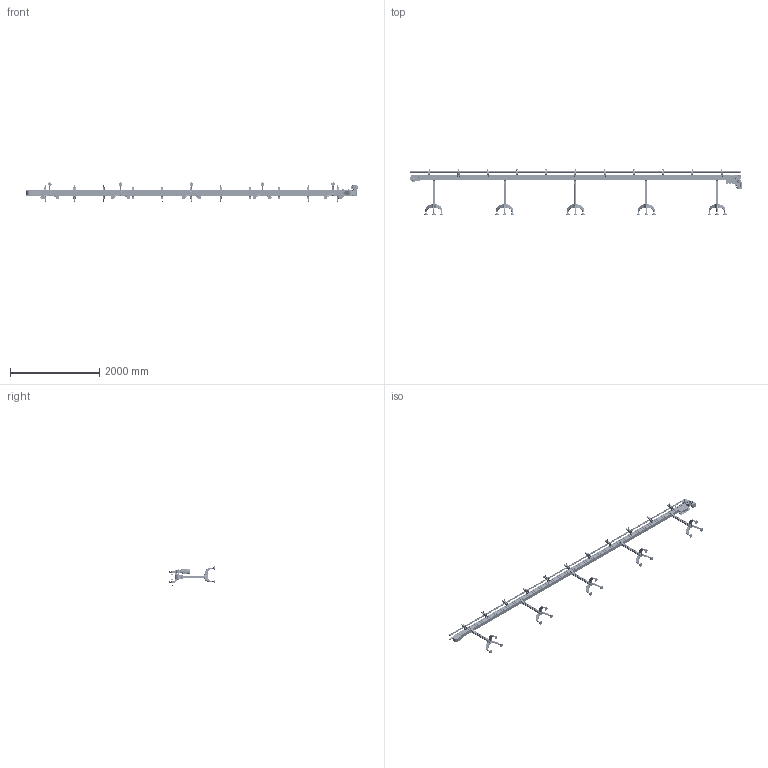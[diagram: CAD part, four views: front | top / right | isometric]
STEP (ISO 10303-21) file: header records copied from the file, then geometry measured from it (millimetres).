
FILE_DESCRIPTION (( 'STEP AP203' ), '1' );
FILE_NAME ('NASTRO_CATENA.step', '2026-05-29T10:57:27', ( 'Utente Windows' ), ( '' ), 'SwSTEP 2.0', 'SolidWorks 2024', '' );
FILE_SCHEMA (( 'CONFIG_CONTROL_DESIGN' ));
Length unit declared in the file: millimetre
Products named in the file (64): VITI TE UNI 5739 INOX_M8x16 UNI 5739 INOX; CHIAVETTE_A 8x7x70 UNI 6604-69; 2000.001.201-3; TRIPIEDE_GAMBE_KP325; 2000.001.202-3; PU008.012.025N; GRANI A PUNTA PIATTA UNI 5923_M8x20 UNI 5923; 084.312.006; 084.712.002; 2000.001.003-3; GAMBE_KP325_Default<A macchina>; PROFILO POLIZENE_209<A macchina>; 084.301.000 VITI ALUSIC_084.301.002; 084.302.000 DADI ALUSIC 13x13-1_084.302.004; 084.711.002; 084.402.004; SUPPORTO_SPONDA; 2000.001.011; 2000.001.006-2; VITI TSEI UNI 5933 INOX_0410UNI5933A2; 2000.325.205-4; 2000.001.212; 2000.325.105-2; 2000.882.750; 084.808.004; VITI TE UNI 5739 INOX_M8x20 UNI 5739 INOX; DADI ESAGONALI AUTOBLOCCANTI UNI 7473 INOX_M6 UNI 7473 INOX; K325_R_P; 2000.325.103; K325_DIR_49_P_DX_MOTORE A DESTRA; 084.802.027; 084.201.012-1; 2000.325.620; VITI TE UNI 5739 INOX_M6x30 UNI 5739 INOX; 2000.325.104-2; RONDELLE FASCIA LARGA UNI 6593 INOX_8.4x32 UNI 6593 INOX; FLANGIA_GAMBE_KP325; 084.408.001; 084.711.005; 2000.001.004-3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
Assembly tree (170 placements, depth 4):
  NASTRO_CATENA
    K325_1_Default<A macchina>
    K325_DIR_49_P_DX_MOTORE A DESTRA
      084.802.027
      2000.001.006-2  x2
      2000.325.003  x2
      2000.325.103
      2000.001.001  x2
      2000.325.001_Default<Lavorato>  x2
      084.808.004
      2000.325.104-2
      2000.001.004-3
      2000.001.011
      2000.325.105-2
      2000.001.003-3
      CHIAVETTE_A 8x7x70 UNI 6604-69
      CHIAVETTE_A 8x7x50 UNI 6604-69
      SBPF205  x2
      663151_NS880T12R25
      VITI TSEI UNI 5933 INOX_0410UNI5933A2  x8
      GRANI A PUNTA CONICA UNI 5927_M8x16 UNI 5927  x8
      VITI TCEI UNI 5931 INOX_M6x30 UNI 5931 INOX  x2
      VITI TE UNI 5739 INOX_M8x20 UNI 5739 INOX
      RONDELLE FASCIA LARGA UNI 6593 INOX_8.4x32 UNI 6593 INOX
      GRANI A PUNTA PIATTA UNI 5923_M8x20 UNI 5923
      RONDELLE FASCIA LARGA UNI 6593 INOX_8.4x24 UNI 6593 INOX
      VITI TE UNI 5739 INOX_M8x16 UNI 5739 INOX  x7
      DADI ESAGONALI AUTOBLOCCANTI UNI 7473 INOX_M6 UNI 7473 INOX  x4
      084.312.006  x6
      PU008.012.025N
      VITI TE UNI 5739 INOX_M6x30 UNI 5739 INOX  x4
      VITI TE UNI 5739 INOX_M6x20 UNI 5739 INOX  x6
    K325_R_P
      2000.001.201-3
      2000.001.202-3
      PROFILO POLIZENE_209<A macchina>  x2
      2000.325.201-1S
      2000.325.205-4
      2000.325.204-4
      2000.001.002  x2
      2000.001.001  x2
      2000.325.001_Default<Lavorato>  x2
      2000.001.213
        2000.001.212  x2
        0630UNI8735  x2
    GAMBE_KP325_Default<A macchina>  x5
    FLANGIA_GAMBE_KP325  x10
      2000.325.620
      084.302.016
      084.301.000 VITI ALUSIC_084.301.002
      084.302.000 DADI ALUSIC 13x13-1_084.302.004
      RONDELLE UNI 6592_8.4x17 UNI 6592
    TRIPIEDE_GAMBE_KP325  x5
      084.402.004
      084.408.001
    084.201.012-1  x5
    SPONDA_DIRITTO_Default<A macchina>
    SUPPORTO_SPONDA  x22
      084.711.004
      084.711.002
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Bounding box: 7457.3 x 1017.82 x 429.56 mm (x, y, z)
Volume: 53012433.1 mm3; surface area: 20935715.4 mm2
Topology: 382 solids, 391 shells, 17386 faces, 41356 edges, 24839 vertices
Faces by surface type: cylinder 6520, plane 5095, cone 3841, torus 946, bspline 852, sphere 132
Entity records: 164478 total; most frequent: CARTESIAN_POINT 50227, DIRECTION 22330, ORIENTED_EDGE 21728, EDGE_CURVE 10875, AXIS2_PLACEMENT_3D 8447, VERTEX_POINT 6727, LINE 5436, VECTOR 5436
